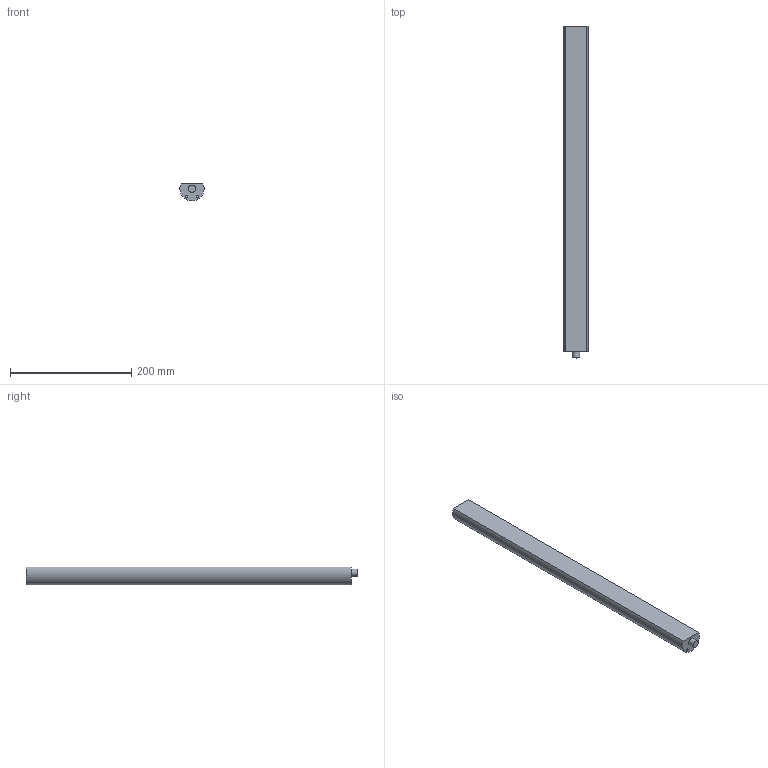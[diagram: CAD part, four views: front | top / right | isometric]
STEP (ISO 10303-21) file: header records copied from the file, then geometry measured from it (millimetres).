
FILE_DESCRIPTION(('FreeCAD Model'),'2;1');
FILE_NAME('Open CASCADE Shape Model','2024-04-10T10:01:13',(''),(''), 'Open CASCADE STEP processor 7.6','FreeCAD','Unknown');
FILE_SCHEMA(('AUTOMOTIVE_DESIGN { 1 0 10303 214 1 1 1 1 }'));
Length unit declared in the file: millimetre
Products named in the file (1): Körper
Bounding box: 39.96 x 547 x 29 mm (x, y, z)
Volume: 507207.3 mm3; surface area: 80289.5 mm2
Topology: 1 solids, 1 shells, 8 faces, 15 edges, 10 vertices
Faces by surface type: cylinder 4, plane 4
Full cylindrical faces by diameter (mm): 4.5 x2, 12 x1
Entity records: 237 total; most frequent: DIRECTION 41, CARTESIAN_POINT 34, ORIENTED_EDGE 30, AXIS2_PLACEMENT_3D 17, EDGE_CURVE 15, FACE_BOUND 13, EDGE_LOOP 13, VERTEX_POINT 10
